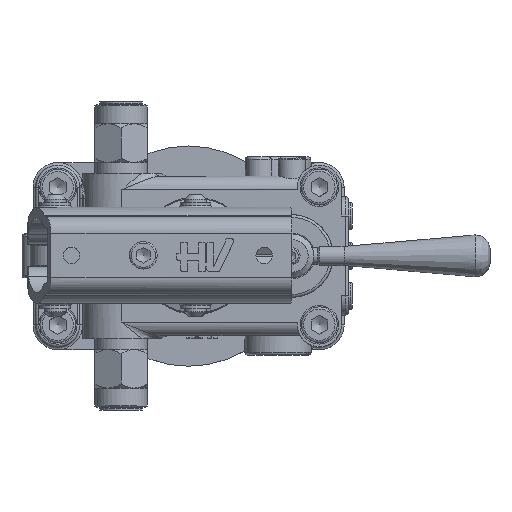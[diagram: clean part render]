
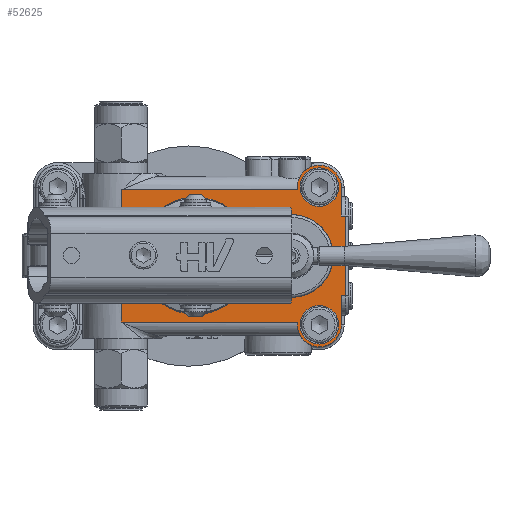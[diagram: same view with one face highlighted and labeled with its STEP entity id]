
A CAD part, top view. The second image highlights one B-rep face of the part: STEP entity #52625.
In plain terms, the highlighted planar face has unit normal (0, 0, 1).
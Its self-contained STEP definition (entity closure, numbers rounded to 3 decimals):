
#22849=CARTESIAN_POINT('',(71.783,19.941,43.));
#22850=VERTEX_POINT('',#22849);
#22851=CARTESIAN_POINT('',(59.0,34.,43.));
#22852=DIRECTION('',(0.,0.,1.0));
#22853=DIRECTION('',(-0.673,0.74,0.));
#22854=AXIS2_PLACEMENT_3D('',#22851,#22852,#22853);
#22855=CIRCLE('',#22854,19.002);
#22856=EDGE_CURVE('',#22850,#22850,#22855,.T.);
#44120=CARTESIAN_POINT('',(96.,58.,43.));
#44121=VERTEX_POINT('',#44120);
#44129=CARTESIAN_POINT('',(96.,59.,43.));
#44130=VERTEX_POINT('',#44129);
#44131=CARTESIAN_POINT('',(96.,58.,43.));
#44132=DIRECTION('',(0.0,1.0,0.0));
#44133=VECTOR('',#44132,1.);
#44134=LINE('',#44131,#44133);
#44135=EDGE_CURVE('',#44121,#44130,#44134,.T.);
#44151=CARTESIAN_POINT('',(96.0,10.0,43.));
#44152=VERTEX_POINT('',#44151);
#44162=CARTESIAN_POINT('',(96.0,9.,43.));
#44163=VERTEX_POINT('',#44162);
#44170=CARTESIAN_POINT('',(96.,9.,43.));
#44171=DIRECTION('',(0.0,1.0,0.0));
#44172=VECTOR('',#44171,1.);
#44173=LINE('',#44170,#44172);
#44174=EDGE_CURVE('',#44163,#44152,#44173,.T.);
#44333=CARTESIAN_POINT('',(32.,44.122,43.));
#44334=VERTEX_POINT('',#44333);
#44383=CARTESIAN_POINT('',(33.732,41.0,43.));
#44384=VERTEX_POINT('',#44383);
#44392=CARTESIAN_POINT('',(33.732,41.0,43.));
#44393=CARTESIAN_POINT('',(33.732,41.528,43.));
#44394=CARTESIAN_POINT('',(33.438,42.767,43.));
#44395=CARTESIAN_POINT('',(32.582,43.719,43.));
#44396=CARTESIAN_POINT('',(32.,44.122,43.));
#44397=B_SPLINE_CURVE_WITH_KNOTS('',3,(#44392,#44393,#44394,#44395,#44396),.UNSPECIFIED.,.F.,.U.,(4,1,4),(2.696,2.855,3.066),.UNSPECIFIED.);
#44398=EDGE_CURVE('',#44384,#44334,#44397,.T.);
#44410=CARTESIAN_POINT('',(33.732,27.,43.));
#44411=VERTEX_POINT('',#44410);
#44419=CARTESIAN_POINT('',(33.732,27.,43.));
#44420=DIRECTION('',(0.0,1.0,0.0));
#44421=VECTOR('',#44420,14.);
#44422=LINE('',#44419,#44421);
#44423=EDGE_CURVE('',#44411,#44384,#44422,.T.);
#44456=CARTESIAN_POINT('',(32.,23.878,43.));
#44457=VERTEX_POINT('',#44456);
#44465=CARTESIAN_POINT('',(32.,23.878,43.));
#44466=CARTESIAN_POINT('',(32.433,24.178,43.));
#44467=CARTESIAN_POINT('',(33.336,25.067,43.));
#44468=CARTESIAN_POINT('',(33.732,26.29,43.0));
#44469=CARTESIAN_POINT('',(33.732,27.,43.));
#44470=B_SPLINE_CURVE_WITH_KNOTS('',3,(#44465,#44466,#44467,#44468,#44469),.UNSPECIFIED.,.F.,.U.,(4,1,4),(2.696,2.854,3.065),.UNSPECIFIED.);
#44471=EDGE_CURVE('',#44457,#44411,#44470,.T.);
#45141=CARTESIAN_POINT('',(112.0,59.,43.));
#45142=VERTEX_POINT('',#45141);
#45149=CARTESIAN_POINT('',(112.,48.5,43.));
#45150=VERTEX_POINT('',#45149);
#45151=CARTESIAN_POINT('',(112.0,59.,43.));
#45152=DIRECTION('',(0.0,-1.0,0.0));
#45153=VECTOR('',#45152,10.5);
#45154=LINE('',#45151,#45153);
#45155=EDGE_CURVE('',#45142,#45150,#45154,.T.);
#45270=CARTESIAN_POINT('',(112.0,19.5,43.));
#45271=VERTEX_POINT('',#45270);
#45279=CARTESIAN_POINT('',(112.,9.,43.));
#45280=VERTEX_POINT('',#45279);
#45281=CARTESIAN_POINT('',(112.,19.5,43.));
#45282=DIRECTION('',(0.0,-1.0,0.0));
#45283=VECTOR('',#45282,10.5);
#45284=LINE('',#45281,#45283);
#45285=EDGE_CURVE('',#45271,#45280,#45284,.T.);
#45617=CARTESIAN_POINT('',(113.5,48.5,43.));
#45618=VERTEX_POINT('',#45617);
#45628=CARTESIAN_POINT('',(112.,48.5,43.));
#45629=DIRECTION('',(1.0,0.0,0.0));
#45630=VECTOR('',#45629,1.5);
#45631=LINE('',#45628,#45630);
#45632=EDGE_CURVE('',#45150,#45618,#45631,.T.);
#45642=CARTESIAN_POINT('',(113.5,19.5,43.));
#45643=VERTEX_POINT('',#45642);
#45653=CARTESIAN_POINT('',(112.0,19.5,43.));
#45654=DIRECTION('',(1.0,0.0,0.0));
#45655=VECTOR('',#45654,1.5);
#45656=LINE('',#45653,#45655);
#45657=EDGE_CURVE('',#45271,#45643,#45656,.T.);
#45937=CARTESIAN_POINT('',(113.5,48.5,43.));
#45938=DIRECTION('',(0.0,-1.0,0.0));
#45939=VECTOR('',#45938,29.);
#45940=LINE('',#45937,#45939);
#45941=EDGE_CURVE('',#45618,#45643,#45940,.T.);
#47385=CARTESIAN_POINT('',(32.,10.0,43.));
#47386=VERTEX_POINT('',#47385);
#47417=CARTESIAN_POINT('',(96.0,10.0,43.));
#47418=DIRECTION('',(-1.0,0.0,0.0));
#47419=VECTOR('',#47418,64.);
#47420=LINE('',#47417,#47419);
#47421=EDGE_CURVE('',#44152,#47386,#47420,.T.);
#48104=CARTESIAN_POINT('',(32.,58.,43.));
#48105=VERTEX_POINT('',#48104);
#48963=CARTESIAN_POINT('',(96.,58.,43.));
#48964=DIRECTION('',(-1.0,0.0,0.0));
#48965=VECTOR('',#48964,64.);
#48966=LINE('',#48963,#48965);
#48967=EDGE_CURVE('',#44121,#48105,#48966,.T.);
#48993=CARTESIAN_POINT('',(104.,59.,43.));
#48994=DIRECTION('',(0.0,0.0,-1.0));
#48995=DIRECTION('',(1.0,0.0,0.0));
#48996=AXIS2_PLACEMENT_3D('',#48993,#48994,#48995);
#48997=CIRCLE('',#48996,8.0);
#48998=EDGE_CURVE('',#44130,#45142,#48997,.T.);
#49382=CARTESIAN_POINT('',(83.0,44.198,43.));
#49383=VERTEX_POINT('',#49382);
#49391=CARTESIAN_POINT('',(83.0,23.802,43.));
#49392=VERTEX_POINT('',#49391);
#49393=CARTESIAN_POINT('',(83.0,23.802,43.));
#49394=DIRECTION('',(0.0,1.0,0.0));
#49395=VECTOR('',#49394,20.396);
#49396=LINE('',#49393,#49395);
#49397=EDGE_CURVE('',#49392,#49383,#49396,.T.);
#49451=CARTESIAN_POINT('',(94.,34.0,43.));
#49452=DIRECTION('',(0.0,0.0,-1.0));
#49453=DIRECTION('',(-1.0,0.0,0.0));
#49454=AXIS2_PLACEMENT_3D('',#49451,#49452,#49453);
#49455=CIRCLE('',#49454,15.0);
#49456=EDGE_CURVE('',#49383,#49392,#49455,.T.);
#49495=CARTESIAN_POINT('',(104.0,9.,43.));
#49496=DIRECTION('',(0.0,0.0,-1.0));
#49497=DIRECTION('',(-1.0,0.0,0.0));
#49498=AXIS2_PLACEMENT_3D('',#49495,#49496,#49497);
#49499=CIRCLE('',#49498,8.0);
#49500=EDGE_CURVE('',#45280,#44163,#49499,.T.);
#50264=CARTESIAN_POINT('',(111.0,9.,43.));
#50265=VERTEX_POINT('',#50264);
#50266=CARTESIAN_POINT('',(104.0,9.,43.));
#50267=DIRECTION('',(0.0,0.0,-1.0));
#50268=DIRECTION('',(1.0,0.0,0.0));
#50269=AXIS2_PLACEMENT_3D('',#50266,#50267,#50268);
#50270=CIRCLE('',#50269,7.);
#50271=EDGE_CURVE('',#50265,#50265,#50270,.T.);
#50292=CARTESIAN_POINT('',(111.,59.,43.));
#50293=VERTEX_POINT('',#50292);
#50294=CARTESIAN_POINT('',(104.,59.,43.));
#50295=DIRECTION('',(0.0,0.0,-1.0));
#50296=DIRECTION('',(1.0,0.0,0.0));
#50297=AXIS2_PLACEMENT_3D('',#50294,#50295,#50296);
#50298=CIRCLE('',#50297,7.);
#50299=EDGE_CURVE('',#50293,#50293,#50298,.T.);
#51198=CARTESIAN_POINT('',(32.0,44.122,43.0));
#51199=DIRECTION('',(0.0,1.0,0.0));
#51200=VECTOR('',#51199,13.878);
#51201=LINE('',#51198,#51200);
#51202=EDGE_CURVE('',#44334,#48105,#51201,.T.);
#51391=CARTESIAN_POINT('',(32.0,10.,43.0));
#51392=DIRECTION('',(0.0,1.0,0.0));
#51393=VECTOR('',#51392,13.878);
#51394=LINE('',#51391,#51393);
#51395=EDGE_CURVE('',#47386,#44457,#51394,.T.);
#52589=CARTESIAN_POINT('',(104.,34.,43.));
#52590=DIRECTION('',(0.0,0.0,1.0));
#52591=DIRECTION('',(1.0,0.0,0.0));
#52592=AXIS2_PLACEMENT_3D('',#52589,#52590,#52591);
#52593=PLANE('',#52592);
#52594=ORIENTED_EDGE('',*,*,#45941,.F.);
#52595=ORIENTED_EDGE('',*,*,#45632,.F.);
#52596=ORIENTED_EDGE('',*,*,#45155,.F.);
#52597=ORIENTED_EDGE('',*,*,#48998,.F.);
#52598=ORIENTED_EDGE('',*,*,#44135,.F.);
#52599=ORIENTED_EDGE('',*,*,#48967,.T.);
#52600=ORIENTED_EDGE('',*,*,#51202,.F.);
#52601=ORIENTED_EDGE('',*,*,#44398,.F.);
#52602=ORIENTED_EDGE('',*,*,#44423,.F.);
#52603=ORIENTED_EDGE('',*,*,#44471,.F.);
#52604=ORIENTED_EDGE('',*,*,#51395,.F.);
#52605=ORIENTED_EDGE('',*,*,#47421,.F.);
#52606=ORIENTED_EDGE('',*,*,#44174,.F.);
#52607=ORIENTED_EDGE('',*,*,#49500,.F.);
#52608=ORIENTED_EDGE('',*,*,#45285,.F.);
#52609=ORIENTED_EDGE('',*,*,#45657,.T.);
#52610=EDGE_LOOP('',(#52594,#52595,#52596,#52597,#52598,#52599,#52600,#52601,#52602,#52603,#52604,#52605,#52606,#52607,#52608,#52609));
#52611=FACE_OUTER_BOUND('',#52610,.T.);
#52612=ORIENTED_EDGE('',*,*,#49456,.T.);
#52613=ORIENTED_EDGE('',*,*,#49397,.T.);
#52614=EDGE_LOOP('',(#52612,#52613));
#52615=FACE_BOUND('',#52614,.T.);
#52616=ORIENTED_EDGE('',*,*,#50271,.T.);
#52617=EDGE_LOOP('',(#52616));
#52618=FACE_BOUND('',#52617,.T.);
#52619=ORIENTED_EDGE('',*,*,#50299,.T.);
#52620=EDGE_LOOP('',(#52619));
#52621=FACE_BOUND('',#52620,.T.);
#52622=ORIENTED_EDGE('',*,*,#22856,.F.);
#52623=EDGE_LOOP('',(#52622));
#52624=FACE_BOUND('',#52623,.T.);
#52625=ADVANCED_FACE('',(#52611,#52615,#52618,#52621,#52624),#52593,.T.);
